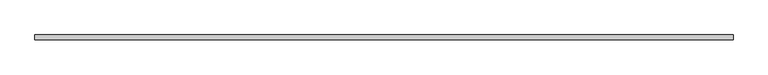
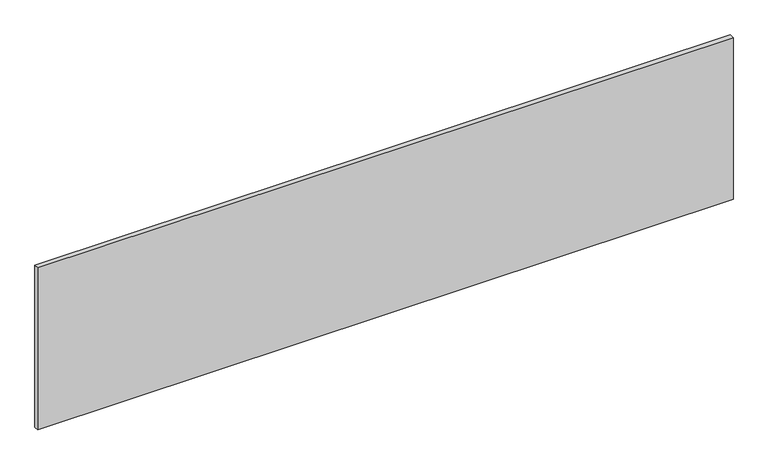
"""IFC4 building model written with IfcOpenShell, lengths in millimetres: plate geometry, Curtain-Panels_Outdoor-Material_HI-MACS_Solids : S006_Artic-White_20mm."""

from ifc_helpers import new_model, si_unit, origin, origin_with_axes, place, context, project, spatial, polyline, outline, extrude, source, transform, mapped, element, save


def plate_eb5be41b(model_context):
    return source(origin(), model_context, "Body", "SweptSolid", [
        extrude(outline(polyline([(1500.0, 10.0), (1500.0, -10.0), (-1500.0, -10.0), (-1500.0, 10.0), (1500.0, 10.0)])), origin_with_axes(), (0.0, 0.0, 1.0), 738.1288393),
    ])


if __name__ == "__main__":
    model = new_model("IFC4")
    model_context = context("Model", 3, world=origin())
    ifc_project = project(units=[si_unit("LENGTHUNIT", "METRE", prefix="MILLI")], contexts=[model_context])
    site = spatial("IfcSite", under=ifc_project)
    building = spatial("IfcBuilding", under=site)
    placement = place(None, origin())
    plate_shape = plate_eb5be41b(model_context)
    element("IfcPlate", 1, ObjectType="Curtain-Panels_Outdoor-Material_HI-MACS_Solids : S006_Artic-White_20mm", at=placement, inside=building, context=model_context, shape_type="MappedRepresentation", body=[
        mapped(plate_shape, transform((0.0, 0.0, 0.0), x_axis=(1.0, 0.0, 0.0), y_axis=(0.0, 1.0, 0.0), z_axis=(0.0, 0.0, 1.0))),
    ])
    save(model, "model.ifc")
